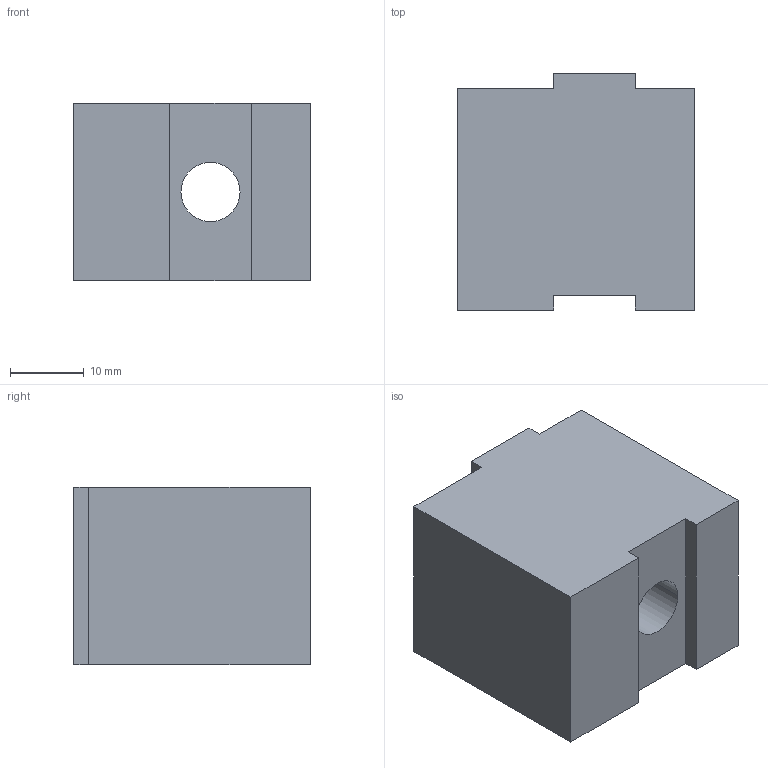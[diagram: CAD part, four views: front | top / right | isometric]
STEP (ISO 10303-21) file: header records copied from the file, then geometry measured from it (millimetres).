
FILE_DESCRIPTION (( 'STEP AP214' ), '1' );
FILE_NAME ('FGRD 30.step', '2017-04-05T07:39:31', ( '' ), ( '' ), 'SwSTEP 2.0', 'SolidWorks 2015', '' );
FILE_SCHEMA (( 'AUTOMOTIVE_DESIGN' ));
Length unit declared in the file: millimetre
Products named in the file (1): FGRD 30
Bounding box: 32 x 32 x 24 mm (x, y, z)
Volume: 21532 mm3; surface area: 5741.5 mm2
Topology: 1 solids, 1 shells, 16 faces, 42 edges, 28 vertices
Faces by surface type: plane 14, cylinder 2
Entity records: 528 total; most frequent: CARTESIAN_POINT 87, ORIENTED_EDGE 84, DIRECTION 80, EDGE_CURVE 42, LINE 38, VECTOR 38, VERTEX_POINT 28, AXIS2_PLACEMENT_3D 21
